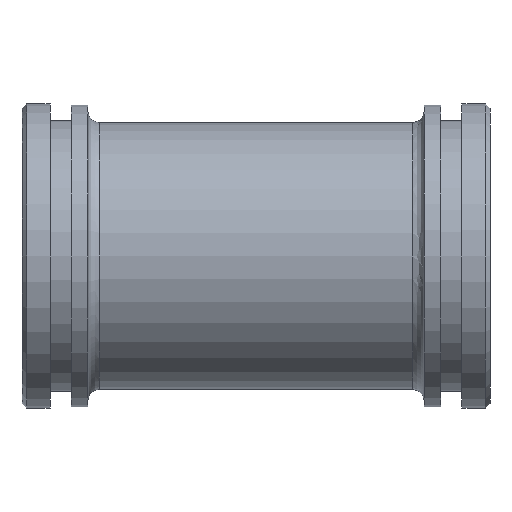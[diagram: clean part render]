
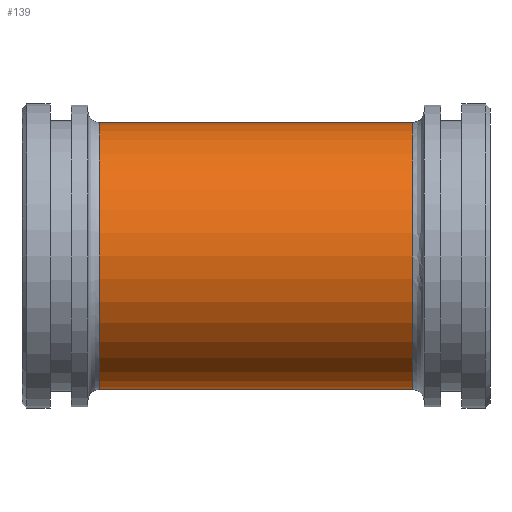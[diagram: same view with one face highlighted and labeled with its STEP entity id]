
A CAD part, front view. The second image highlights one B-rep face of the part: STEP entity #139.
In plain terms, the highlighted cylindrical face has radius 28.5 mm (diameter 57 mm), a full revolution.
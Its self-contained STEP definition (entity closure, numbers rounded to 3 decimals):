
#97=CARTESIAN_POINT('',(33.5,28.5,0.0));
#98=VERTEX_POINT('',#97);
#99=CARTESIAN_POINT('',(33.5,0.0,0.0));
#100=DIRECTION('',(1.0,0.0,0.0));
#101=DIRECTION('',(0.0,-1.0,0.0));
#102=AXIS2_PLACEMENT_3D('',#99,#100,#101);
#103=CIRCLE('',#102,28.5);
#104=EDGE_CURVE('',#98,#98,#103,.T.);
#120=CARTESIAN_POINT('',(0.,0.0,0.0));
#121=DIRECTION('',(1.0,0.0,0.0));
#122=DIRECTION('',(0.0,1.0,0.0));
#123=AXIS2_PLACEMENT_3D('',#120,#121,#122);
#124=CYLINDRICAL_SURFACE('',#123,28.5);
#125=CARTESIAN_POINT('',(-33.5,28.5,0.));
#126=VERTEX_POINT('',#125);
#127=CARTESIAN_POINT('',(-33.5,0.0,0.0));
#128=DIRECTION('',(-1.0,0.0,0.0));
#129=DIRECTION('',(0.0,-1.0,0.0));
#130=AXIS2_PLACEMENT_3D('',#127,#128,#129);
#131=CIRCLE('',#130,28.5);
#132=EDGE_CURVE('',#126,#126,#131,.T.);
#133=ORIENTED_EDGE('',*,*,#132,.F.);
#134=EDGE_LOOP('',(#133));
#135=FACE_OUTER_BOUND('',#134,.T.);
#136=ORIENTED_EDGE('',*,*,#104,.F.);
#137=EDGE_LOOP('',(#136));
#138=FACE_BOUND('',#137,.T.);
#139=ADVANCED_FACE('',(#135,#138),#124,.T.);
